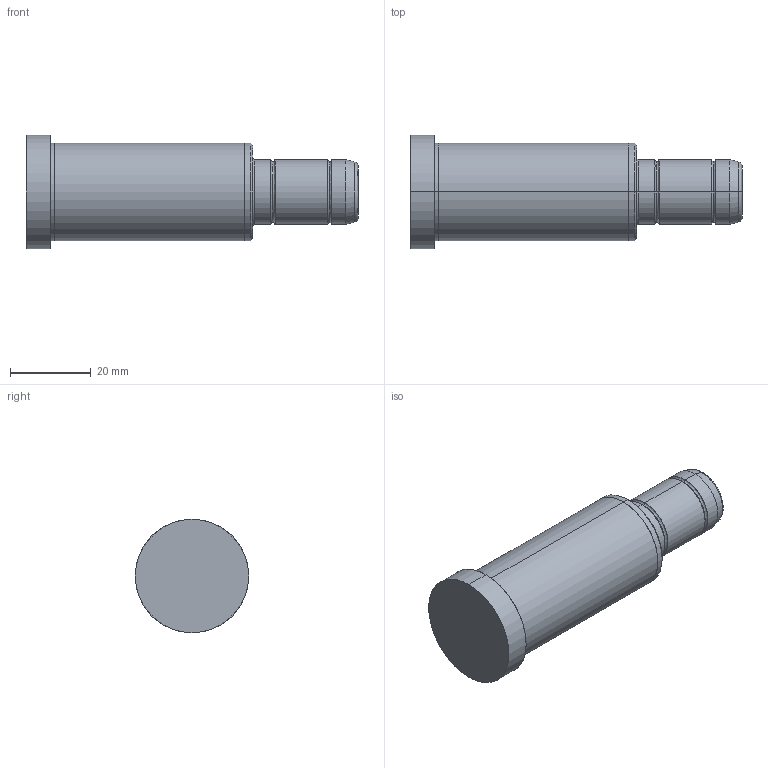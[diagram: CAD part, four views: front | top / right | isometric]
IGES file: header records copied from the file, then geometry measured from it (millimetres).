
Start section: SolidWorks IGES file using analytic representation for surfaces
Global section: file name: C:\Documents and Settings\kalite-mail\Desktop\IGS\D02\16\D02 - 16x56x26.IGS; native system: SolidWorks 2008; preprocessor: SolidWorks 2008; author: kalite-mail; date: 080616.143549; units: millimetre
Bounding box: 82 x 28 x 28 mm (x, y, z)
Surface area: 6807.2 mm2 (no closed solid volume)
Topology: 0 solids, 0 shells, 36 faces, 504 edges, 504 vertices
Faces by surface type: bspline 18, revolution 18
